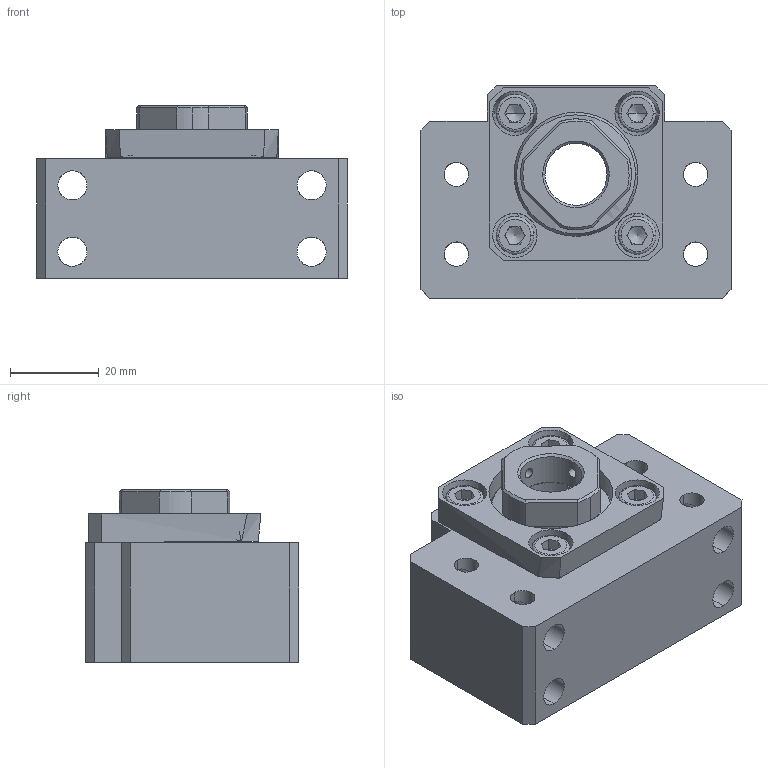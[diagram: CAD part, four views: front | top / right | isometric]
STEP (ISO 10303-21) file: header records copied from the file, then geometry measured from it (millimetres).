
FILE_DESCRIPTION (( 'STEP AP214' ), '1' );
FILE_NAME ('7.4003 BK15.STEP', '2026-03-05T13:17:32', ( '' ), ( '' ), 'SwSTEP 2.0', 'SolidWorks 2025', '' );
FILE_SCHEMA (( 'AUTOMOTIVE_DESIGN' ));
Length unit declared in the file: millimetre
Products named in the file (1): 7.4003 BK15
Bounding box: 70 x 48.1 x 39 mm (x, y, z)
Surface area: 23069.4 mm2 (no closed solid volume)
Topology: 0 solids, 15 shells, 280 faces, 854 edges, 545 vertices
Faces by surface type: plane 121, cylinder 76, bspline 42, cone 35, sphere 6
Entity records: 17975 total; most frequent: CARTESIAN_POINT 11909, ORIENTED_EDGE 1509, EDGE_CURVE 814, B_SPLINE_CURVE_WITH_KNOTS 761, VERTEX_POINT 545, DIRECTION 494, EDGE_LOOP 327, ADVANCED_FACE 280
